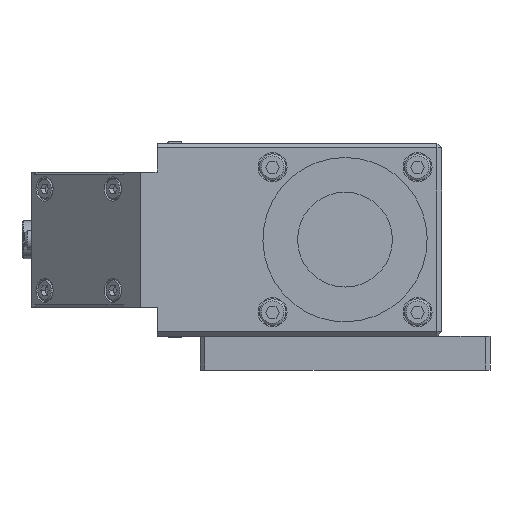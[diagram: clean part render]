
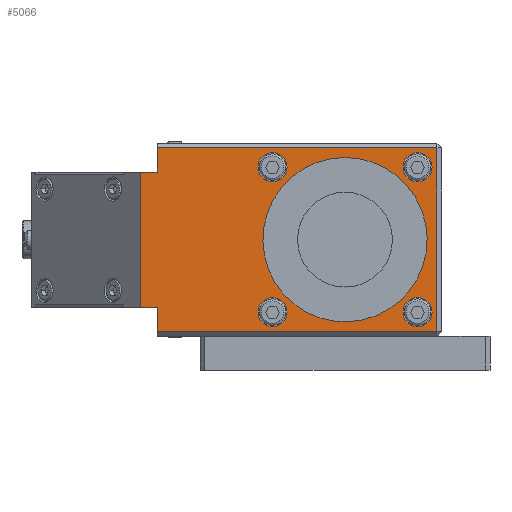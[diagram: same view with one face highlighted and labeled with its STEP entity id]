
A CAD part, front view. The second image highlights one B-rep face of the part: STEP entity #5066.
In plain terms, the highlighted planar face has unit normal (0, -1, 0).
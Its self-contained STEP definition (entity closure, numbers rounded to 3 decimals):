
#4710=CARTESIAN_POINT('',(23.312,-47.347,-39.));
#4711=VERTEX_POINT('',#4710);
#4733=CARTESIAN_POINT('',(23.312,-47.347,-1.));
#4734=VERTEX_POINT('',#4733);
#4755=CARTESIAN_POINT('',(-10.688,-47.347,-32.));
#4756=VERTEX_POINT('',#4755);
#4757=CARTESIAN_POINT('',(-10.688,-47.347,-35.));
#4758=DIRECTION('',(0.,1.,0.));
#4759=DIRECTION('',(0.,0.,1.));
#4760=AXIS2_PLACEMENT_3D('',#4757,#4758,#4759);
#4761=CIRCLE('',#4760,3.);
#4762=EDGE_CURVE('',#4756,#4756,#4761,.T.);
#4780=CARTESIAN_POINT('',(19.312,-47.347,-32.));
#4781=VERTEX_POINT('',#4780);
#4782=CARTESIAN_POINT('',(19.312,-47.347,-35.));
#4783=DIRECTION('',(0.,1.,0.));
#4784=DIRECTION('',(0.,0.,1.));
#4785=AXIS2_PLACEMENT_3D('',#4782,#4783,#4784);
#4786=CIRCLE('',#4785,3.);
#4787=EDGE_CURVE('',#4781,#4781,#4786,.T.);
#4805=CARTESIAN_POINT('',(19.312,-47.347,-2.));
#4806=VERTEX_POINT('',#4805);
#4807=CARTESIAN_POINT('',(19.312,-47.347,-5.));
#4808=DIRECTION('',(0.,1.,0.));
#4809=DIRECTION('',(0.,0.,1.));
#4810=AXIS2_PLACEMENT_3D('',#4807,#4808,#4809);
#4811=CIRCLE('',#4810,3.);
#4812=EDGE_CURVE('',#4806,#4806,#4811,.T.);
#4830=CARTESIAN_POINT('',(-10.688,-47.347,-2.));
#4831=VERTEX_POINT('',#4830);
#4832=CARTESIAN_POINT('',(-10.688,-47.347,-5.));
#4833=DIRECTION('',(0.,1.,0.));
#4834=DIRECTION('',(0.,0.,1.));
#4835=AXIS2_PLACEMENT_3D('',#4832,#4833,#4834);
#4836=CIRCLE('',#4835,3.);
#4837=EDGE_CURVE('',#4831,#4831,#4836,.T.);
#4855=CARTESIAN_POINT('',(23.312,-47.347,-30.));
#4856=DIRECTION('',(0.,0.,-1.));
#4857=VECTOR('',#4856,1.);
#4858=LINE('',#4855,#4857);
#4859=EDGE_CURVE('',#4734,#4711,#4858,.T.);
#4872=CARTESIAN_POINT('',(16.959,-47.347,-20.));
#4873=VERTEX_POINT('',#4872);
#4874=CARTESIAN_POINT('',(4.312,-47.347,-20.));
#4875=DIRECTION('',(0.,1.,0.));
#4876=DIRECTION('',(-1.,0.,0.));
#4877=AXIS2_PLACEMENT_3D('',#4874,#4875,#4876);
#4878=CIRCLE('',#4877,12.647);
#4879=EDGE_CURVE('',#4873,#4873,#4878,.T.);
#4989=CARTESIAN_POINT('',(-34.588,-47.347,-39.));
#4990=VERTEX_POINT('',#4989);
#4991=CARTESIAN_POINT('',(3.812,-47.347,-39.));
#4992=DIRECTION('',(-1.,0.,0.));
#4993=VECTOR('',#4992,1.);
#4994=LINE('',#4991,#4993);
#4995=EDGE_CURVE('',#4711,#4990,#4994,.T.);
#4996=ORIENTED_EDGE('',*,*,#4995,.F.);
#4997=ORIENTED_EDGE('',*,*,#4859,.F.);
#4998=CARTESIAN_POINT('',(-34.588,-47.347,-1.));
#4999=VERTEX_POINT('',#4998);
#5000=CARTESIAN_POINT('',(3.812,-47.347,-1.));
#5001=DIRECTION('',(1.,0.,0.));
#5002=VECTOR('',#5001,1.);
#5003=LINE('',#5000,#5002);
#5004=EDGE_CURVE('',#4999,#4734,#5003,.T.);
#5005=ORIENTED_EDGE('',*,*,#5004,.F.);
#5006=CARTESIAN_POINT('',(-34.588,-47.347,-6.));
#5007=VERTEX_POINT('',#5006);
#5008=CARTESIAN_POINT('',(-34.588,-47.347,-1.));
#5009=DIRECTION('',(0.,0.,-1.));
#5010=VECTOR('',#5009,1.);
#5011=LINE('',#5008,#5010);
#5012=EDGE_CURVE('',#4999,#5007,#5011,.T.);
#5013=ORIENTED_EDGE('',*,*,#5012,.T.);
#5014=CARTESIAN_POINT('',(-38.012,-47.347,-6.));
#5015=VERTEX_POINT('',#5014);
#5016=CARTESIAN_POINT('',(-24.588,-47.347,-6.));
#5017=DIRECTION('',(-1.,0.,0.));
#5018=VECTOR('',#5017,1.);
#5019=LINE('',#5016,#5018);
#5020=EDGE_CURVE('',#5007,#5015,#5019,.T.);
#5021=ORIENTED_EDGE('',*,*,#5020,.T.);
#5022=CARTESIAN_POINT('',(-38.012,-47.347,-34.));
#5023=VERTEX_POINT('',#5022);
#5024=CARTESIAN_POINT('',(-38.012,-47.347,-34.));
#5025=DIRECTION('',(0.,0.,1.));
#5026=VECTOR('',#5025,1.);
#5027=LINE('',#5024,#5026);
#5028=EDGE_CURVE('',#5023,#5015,#5027,.T.);
#5029=ORIENTED_EDGE('',*,*,#5028,.F.);
#5030=CARTESIAN_POINT('',(-34.588,-47.347,-34.));
#5031=VERTEX_POINT('',#5030);
#5032=CARTESIAN_POINT('',(-24.588,-47.347,-34.));
#5033=DIRECTION('',(-1.,0.,0.));
#5034=VECTOR('',#5033,1.);
#5035=LINE('',#5032,#5034);
#5036=EDGE_CURVE('',#5031,#5023,#5035,.T.);
#5037=ORIENTED_EDGE('',*,*,#5036,.F.);
#5038=CARTESIAN_POINT('',(-34.588,-47.347,-1.));
#5039=DIRECTION('',(0.,0.,-1.));
#5040=VECTOR('',#5039,1.);
#5041=LINE('',#5038,#5040);
#5042=EDGE_CURVE('',#5031,#4990,#5041,.T.);
#5043=ORIENTED_EDGE('',*,*,#5042,.T.);
#5044=EDGE_LOOP('',(#4996,#4997,#5005,#5013,#5021,#5029,#5037,#5043));
#5045=FACE_OUTER_BOUND('',#5044,.T.);
#5046=ORIENTED_EDGE('',*,*,#4879,.T.);
#5047=EDGE_LOOP('',(#5046));
#5048=FACE_BOUND('',#5047,.T.);
#5049=ORIENTED_EDGE('',*,*,#4837,.T.);
#5050=EDGE_LOOP('',(#5049));
#5051=FACE_BOUND('',#5050,.T.);
#5052=ORIENTED_EDGE('',*,*,#4812,.T.);
#5053=EDGE_LOOP('',(#5052));
#5054=FACE_BOUND('',#5053,.T.);
#5055=ORIENTED_EDGE('',*,*,#4787,.T.);
#5056=EDGE_LOOP('',(#5055));
#5057=FACE_BOUND('',#5056,.T.);
#5058=ORIENTED_EDGE('',*,*,#4762,.T.);
#5059=EDGE_LOOP('',(#5058));
#5060=FACE_BOUND('',#5059,.T.);
#5061=CARTESIAN_POINT('',(3.812,-47.347,-40.));
#5062=DIRECTION('',(0.,-1.,0.));
#5063=DIRECTION('',(-1.,0.,0.));
#5064=AXIS2_PLACEMENT_3D('',#5061,#5062,#5063);
#5065=PLANE('',#5064);
#5066=ADVANCED_FACE('',(#5045,#5048,#5051,#5054,#5057,#5060),#5065,.T.);
